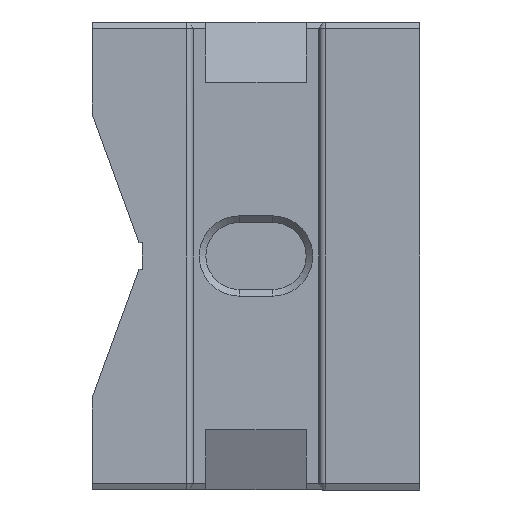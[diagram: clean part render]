
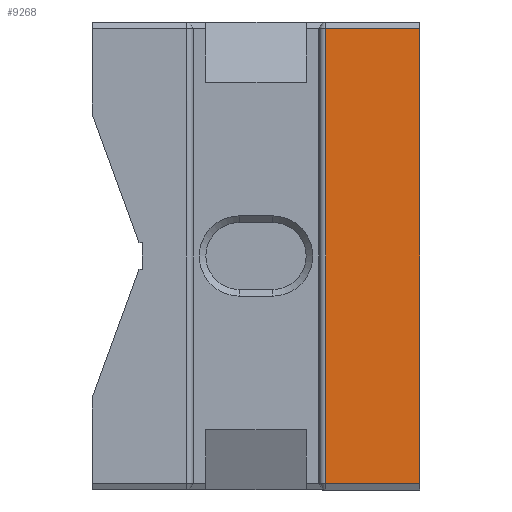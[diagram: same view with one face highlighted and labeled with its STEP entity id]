
A CAD part, front view. The second image highlights one B-rep face of the part: STEP entity #9268.
In plain terms, the highlighted planar face has unit normal (0, -1, 0).
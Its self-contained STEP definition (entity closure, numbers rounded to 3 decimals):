
#518 = EDGE_CURVE ( 'NONE', #2958, #11425, #11632, .T. ) ;
#802 = VECTOR ( 'NONE', #4300, 1000. ) ;
#1437 = EDGE_CURVE ( 'NONE', #2958, #10300, #2629, .T. ) ;
#1821 = DIRECTION ( 'NONE',  ( -1., 0., 0. ) ) ;
#1934 = CARTESIAN_POINT ( 'NONE',  ( 10.414, -22., -34. ) ) ;
#2387 = CARTESIAN_POINT ( 'NONE',  ( 10.414, -22., 34. ) ) ;
#2629 = LINE ( 'NONE', #5510, #2914 ) ;
#2914 = VECTOR ( 'NONE', #4620, 1000. ) ;
#2958 = VERTEX_POINT ( 'NONE', #8995 ) ;
#2999 = ORIENTED_EDGE ( 'NONE', *, *, #1437, .F. ) ;
#3430 = DIRECTION ( 'NONE',  ( 0., 0., -1. ) ) ;
#3510 = CARTESIAN_POINT ( 'NONE',  ( 24.5, -22., 34. ) ) ;
#3693 = EDGE_CURVE ( 'NONE', #8988, #10300, #5872, .T. ) ;
#3703 = DIRECTION ( 'NONE',  ( 0., 1., 0. ) ) ;
#3975 = VECTOR ( 'NONE', #8330, 1000. ) ;
#4094 = ORIENTED_EDGE ( 'NONE', *, *, #518, .T. ) ;
#4300 = DIRECTION ( 'NONE',  ( 1., 0., 0. ) ) ;
#4620 = DIRECTION ( 'NONE',  ( 0., 0., -1. ) ) ;
#4780 = CARTESIAN_POINT ( 'NONE',  ( 24.5, -22., 35. ) ) ;
#5129 = ORIENTED_EDGE ( 'NONE', *, *, #3693, .T. ) ;
#5260 = CARTESIAN_POINT ( 'NONE',  ( 24.5, -22., -34. ) ) ;
#5317 = FACE_OUTER_BOUND ( 'NONE', #8926, .T. ) ;
#5510 = CARTESIAN_POINT ( 'NONE',  ( 24.5, -22., 35. ) ) ;
#5872 = LINE ( 'NONE', #5260, #802 ) ;
#6065 = AXIS2_PLACEMENT_3D ( 'NONE', #4780, #3703, #1821 ) ;
#6764 = CARTESIAN_POINT ( 'NONE',  ( 24.5, -22., -34. ) ) ;
#8268 = ORIENTED_EDGE ( 'NONE', *, *, #12315, .T. ) ;
#8330 = DIRECTION ( 'NONE',  ( -1., 0., 0. ) ) ;
#8560 = PLANE ( 'NONE',  #6065 ) ;
#8926 = EDGE_LOOP ( 'NONE', ( #2999, #4094, #8268, #5129 ) ) ;
#8988 = VERTEX_POINT ( 'NONE', #1934 ) ;
#8995 = CARTESIAN_POINT ( 'NONE',  ( 24.5, -22., 34. ) ) ;
#9268 = ADVANCED_FACE ( 'NONE', ( #5317 ), #8560, .F. ) ;
#10225 = CARTESIAN_POINT ( 'NONE',  ( 10.414, -22., 35. ) ) ;
#10253 = LINE ( 'NONE', #10225, #11306 ) ;
#10300 = VERTEX_POINT ( 'NONE', #6764 ) ;
#11306 = VECTOR ( 'NONE', #3430, 1000. ) ;
#11425 = VERTEX_POINT ( 'NONE', #2387 ) ;
#11632 = LINE ( 'NONE', #3510, #3975 ) ;
#12315 = EDGE_CURVE ( 'NONE', #11425, #8988, #10253, .T. ) ;
